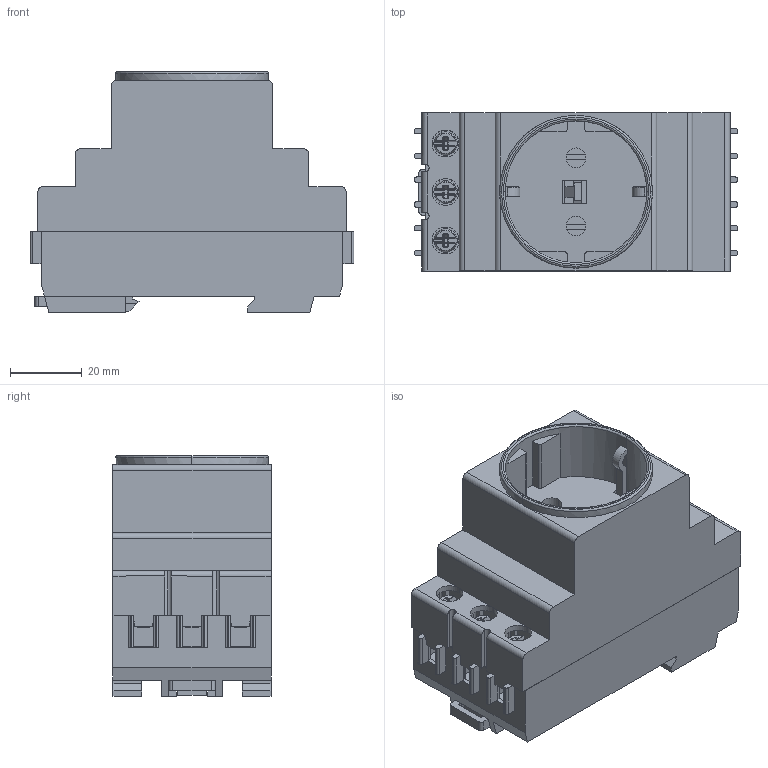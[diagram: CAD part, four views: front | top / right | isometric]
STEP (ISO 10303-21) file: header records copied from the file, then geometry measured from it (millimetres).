
FILE_DESCRIPTION (( 'STEP AP214' ), '1' );
FILE_NAME ('ZSF.step', '2011-08-23T11:46:35', ( 'Radek Veselý' ), ( 'Siemens and Partners' ), 'SwSTEP 2.0', 'SolidWorks 2006303', '' );
FILE_SCHEMA (( 'AUTOMOTIVE_DESIGN' ));
Length unit declared in the file: millimetre
Products named in the file (1): ZSF
Bounding box: 90 x 44 x 67 mm (x, y, z)
Volume: 61166.2 mm3; surface area: 58517.3 mm2
Topology: 8 solids, 8 shells, 931 faces, 2569 edges, 1648 vertices
Faces by surface type: plane 602, cylinder 269, sphere 24, torus 16, bspline 12, cone 8
Entity records: 39815 total; most frequent: CARTESIAN_POINT 5654, ORIENTED_EDGE 5090, DIRECTION 4855, EDGE_CURVE 2545, VECTOR 1899, LINE 1899, VERTEX_POINT 1648, AXIS2_PLACEMENT_3D 1478
